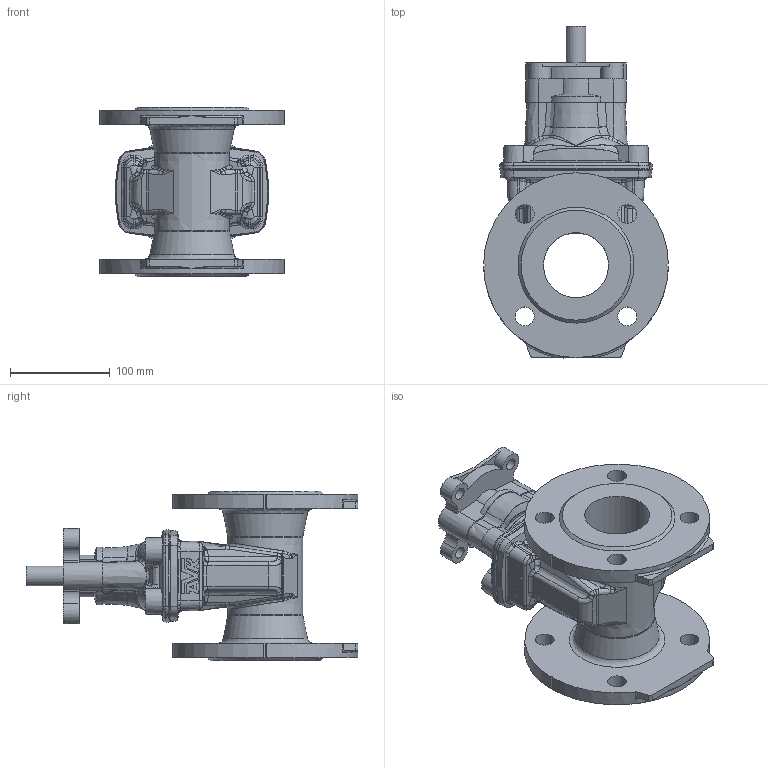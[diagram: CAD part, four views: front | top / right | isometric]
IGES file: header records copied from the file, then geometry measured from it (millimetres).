
Start section: SolidWorks IGES file using analytic representation for surfaces
Global section: file name: \\avksan2\techshare\PBM outline export from Enovia\O_06_42_DN065_X1XXX_REV02.igs; native system: SolidWorks 2022; preprocessor: SolidWorks 2022; author: pbm; date: 251218.075205; units: millimetre
Bounding box: 184.98 x 332.12 x 170 mm (x, y, z)
Surface area: 268003.6 mm2 (no closed solid volume)
Topology: 0 solids, 0 shells, 544 faces, 2737 edges, 2697 vertices
Faces by surface type: bspline 316, revolution 228
